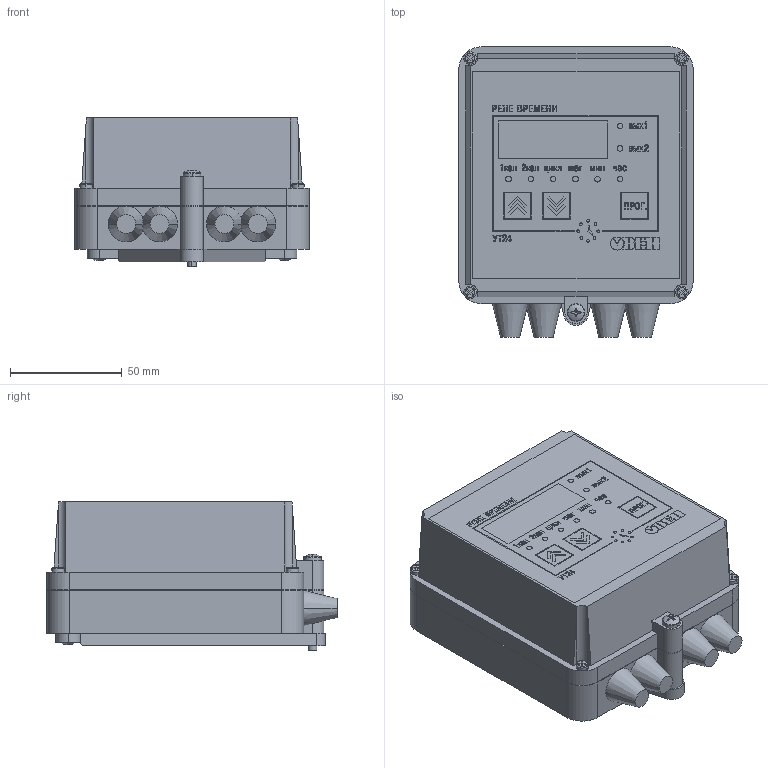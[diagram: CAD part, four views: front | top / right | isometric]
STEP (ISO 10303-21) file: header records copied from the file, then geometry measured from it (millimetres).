
FILE_DESCRIPTION (( 'STEP AP214' ), '1' );
FILE_NAME ('衵24狉鼁闉罻.STEP', '2015-06-06T16:48:59', ( 'Vika' ), ( '' ), 'SwSTEP 2.0', 'SolidWorks 2014', '' );
FILE_SCHEMA (( 'AUTOMOTIVE_DESIGN' ));
Length unit declared in the file: millimetre
Products named in the file (6): ÓÒ24Í_Øèëüäèê; ÓÒ24Í_Êîðïóñ Í; 衵24狉鼁闉罻; pan cross head_am_B18.6.7M - M4 x 0.7 x 40 Type I Cross Recessed PHMS --40N; ﾓﾒ24ﾍ_ﾊ煇鳫; 衵24狉砑鳧罻
Assembly tree (7 placements, depth 2):
  衵24狉鼁闉罻
    ÓÒ24Í_Êîðïóñ Í
    ÓÒ24Í_Øèëüäèê
    衵24狉砑鳧罻
    ﾓﾒ24ﾍ_ﾊ煇鳫
    pan cross head_am_B18.6.7M - M4 x 0.7 x 40 Type I Cross Recessed PHMS --40N  x3
Bounding box: 105 x 130 x 66.5 mm (x, y, z)
Volume: 689115.2 mm3; surface area: 108057.7 mm2
Topology: 12 solids, 12 shells, 1263 faces, 3319 edges, 2198 vertices
Faces by surface type: plane 844, bspline 310, cylinder 81, torus 14, cone 8, sphere 6
Entity records: 41760 total; most frequent: CARTESIAN_POINT 10764, ORIENTED_EDGE 6438, DIRECTION 4615, EDGE_CURVE 3219, LINE 2381, VECTOR 2381, VERTEX_POINT 2138, EDGE_LOOP 1349
